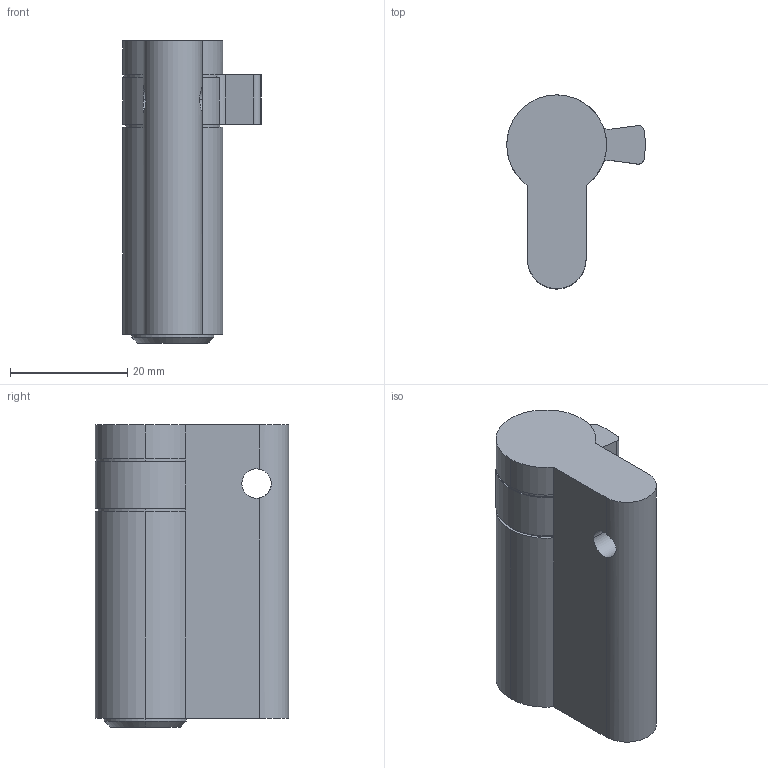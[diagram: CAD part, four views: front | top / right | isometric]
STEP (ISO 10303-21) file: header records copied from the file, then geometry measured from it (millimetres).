
FILE_DESCRIPTION (( 'STEP AP214' ), '1' );
FILE_NAME ('TPL-H-EU-508-L 29Oct2024.STEP', '2024-10-29T22:12:21', ( '' ), ( '' ), 'SwSTEP 2.0', 'SolidWorks 2023', '' );
FILE_SCHEMA (( 'AUTOMOTIVE_DESIGN' ));
Length unit declared in the file: millimetre
Products named in the file (1): TPL-H-EU-508-L 29Oct2024
Bounding box: 23.58 x 33 x 51.5 mm (x, y, z)
Volume: 19080 mm3; surface area: 5812.8 mm2
Topology: 1 solids, 1 shells, 45 faces, 124 edges, 78 vertices
Faces by surface type: cylinder 26, plane 16, cone 3
Entity records: 1540 total; most frequent: CARTESIAN_POINT 318, DIRECTION 271, ORIENTED_EDGE 248, EDGE_CURVE 124, AXIS2_PLACEMENT_3D 107, VERTEX_POINT 78, CIRCLE 61, VECTOR 57
